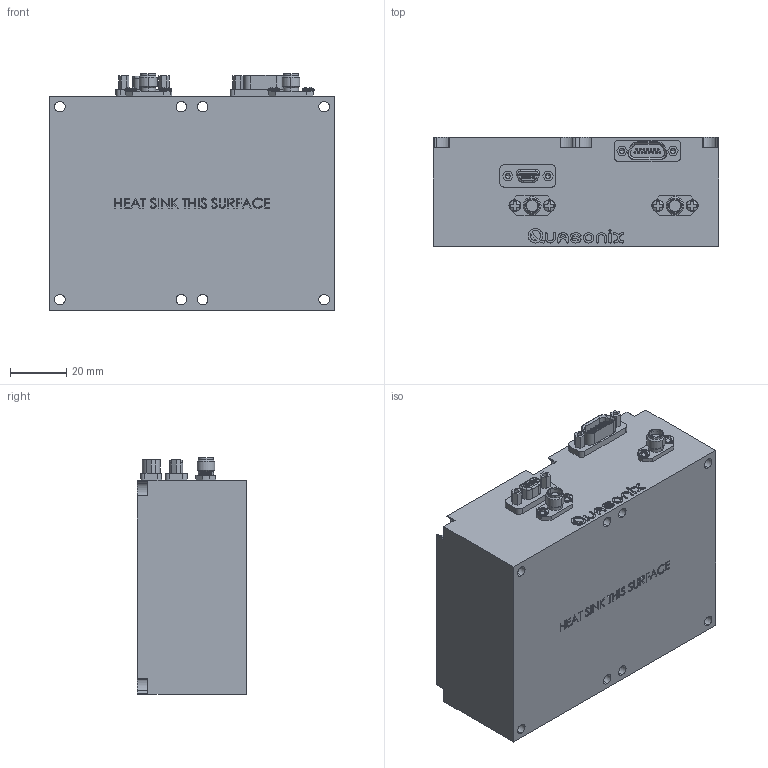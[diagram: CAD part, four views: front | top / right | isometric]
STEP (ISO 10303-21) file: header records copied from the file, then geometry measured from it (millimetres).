
FILE_DESCRIPTION (( 'STEP AP214' ), '1' );
FILE_NAME ('18AF.STEP', '2019-05-22T12:26:13', ( '' ), ( '' ), 'SwSTEP 2.0', 'SolidWorks 2018', '' );
FILE_SCHEMA (( 'AUTOMOTIVE_DESIGN' ));
Length unit declared in the file: inch
Products named in the file (1): 18AF
Bounding box: 101.6 x 38.98 x 84.14 mm (x, y, z)
Volume: 299057.4 mm3; surface area: 35931.6 mm2
Topology: 13 solids, 13 shells, 942 faces, 2395 edges, 1576 vertices
Faces by surface type: plane 470, cylinder 276, bspline 142, cone 25, torus 21, sphere 8
Entity records: 42193 total; most frequent: CARTESIAN_POINT 11092, ORIENTED_EDGE 4790, DIRECTION 4304, EDGE_CURVE 2395, VERTEX_POINT 1576, AXIS2_PLACEMENT_3D 1452, LINE 1400, VECTOR 1400
